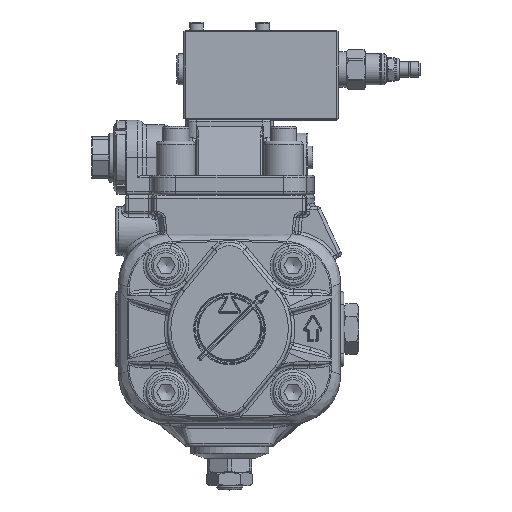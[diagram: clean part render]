
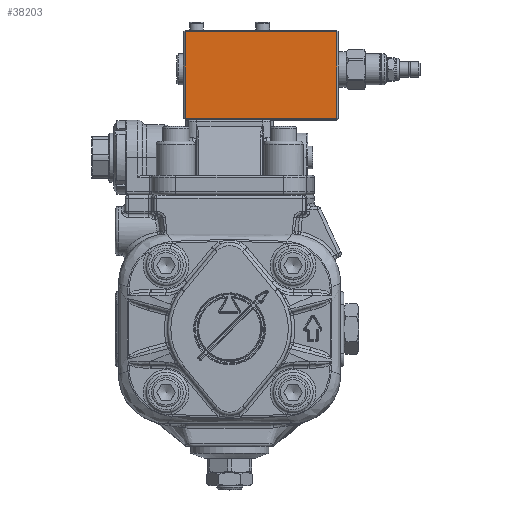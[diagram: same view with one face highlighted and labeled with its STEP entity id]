
A CAD part, top view. The second image highlights one B-rep face of the part: STEP entity #38203.
In plain terms, the highlighted planar face has unit normal (0, 0, 1).
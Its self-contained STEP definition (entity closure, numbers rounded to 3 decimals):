
#2920=LINE('',#56856,#4977);
#2922=LINE('',#56860,#4979);
#2925=LINE('',#56864,#4982);
#2931=LINE('',#56875,#4988);
#4977=VECTOR('',#45727,10.);
#4979=VECTOR('',#45733,10.);
#4982=VECTOR('',#45738,10.);
#4988=VECTOR('',#45754,10.);
#6927=PLANE('',#40791);
#7795=FACE_OUTER_BOUND('',#10145,.T.);
#10145=EDGE_LOOP('',(#25060,#25061,#25062,#25063));
#15090=VERTEX_POINT('',#56828);
#15091=VERTEX_POINT('',#56832);
#15096=VERTEX_POINT('',#56846);
#15098=VERTEX_POINT('',#56851);
#18790=EDGE_CURVE('',#15098,#15096,#2920,.T.);
#18792=EDGE_CURVE('',#15091,#15098,#2922,.T.);
#18795=EDGE_CURVE('',#15096,#15090,#2925,.T.);
#18801=EDGE_CURVE('',#15090,#15091,#2931,.T.);
#25060=ORIENTED_EDGE('',*,*,#18790,.F.);
#25061=ORIENTED_EDGE('',*,*,#18792,.F.);
#25062=ORIENTED_EDGE('',*,*,#18801,.F.);
#25063=ORIENTED_EDGE('',*,*,#18795,.F.);
#38203=ADVANCED_FACE('',(#7795),#6927,.T.);
#40791=AXIS2_PLACEMENT_3D('',#56885,#45767,#45768);
#45727=DIRECTION('',(1.,0.,0.));
#45733=DIRECTION('',(0.,1.,0.));
#45738=DIRECTION('',(0.,-1.,0.));
#45754=DIRECTION('',(-1.,0.,0.));
#45767=DIRECTION('center_axis',(0.,0.,
1.));
#45768=DIRECTION('ref_axis',(0.,1.,0.));
#56828=CARTESIAN_POINT('',(59.21,116.996,41.252));
#56832=CARTESIAN_POINT('',(-33.79,116.996,41.252));
#56846=CARTESIAN_POINT('',(59.21,169.996,41.252));
#56851=CARTESIAN_POINT('',(-33.79,169.996,41.252));
#56856=CARTESIAN_POINT('',(-11.04,169.996,41.252));
#56860=CARTESIAN_POINT('',(-33.79,170.996,41.252));
#56864=CARTESIAN_POINT('',(59.21,170.996,41.252));
#56875=CARTESIAN_POINT('',(-11.04,116.996,41.252));
#56885=CARTESIAN_POINT('Origin',(-34.79,170.996,41.252));
